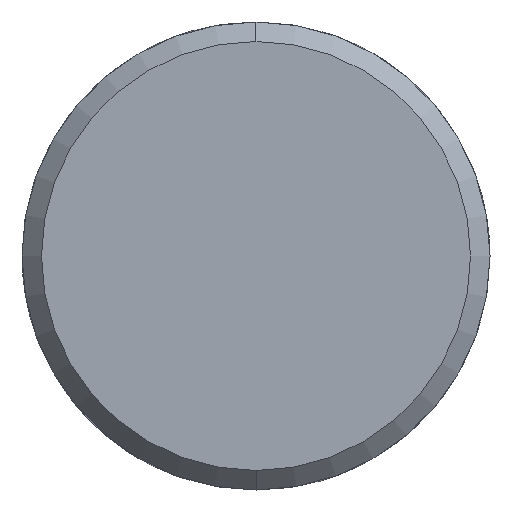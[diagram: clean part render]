
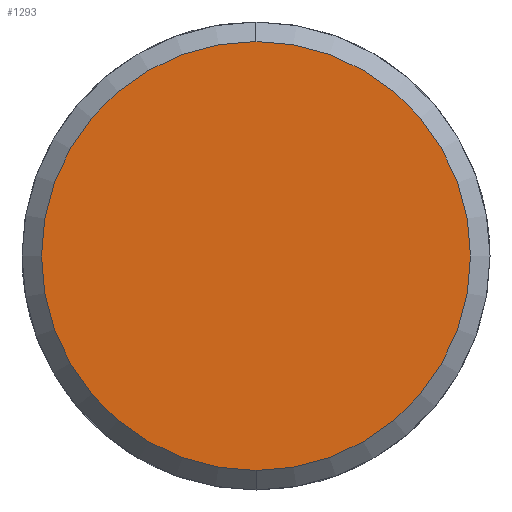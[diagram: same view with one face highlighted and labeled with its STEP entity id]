
A CAD part, left-side view. The second image highlights one B-rep face of the part: STEP entity #1293.
In plain terms, the highlighted planar face has unit normal (-1, 0, 0).
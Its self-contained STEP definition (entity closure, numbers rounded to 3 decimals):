
#1225=CARTESIAN_POINT('Vertex',(-5.,0.,-11.)) ;
#1228=CARTESIAN_POINT('Axis2P3D Location',(-5.,0.,0.)) ;
#1232=CARTESIAN_POINT('Vertex',(-5.,11.,0.)) ;
#1235=CARTESIAN_POINT('Axis2P3D Location',(-5.,0.,0.)) ;
#1239=CARTESIAN_POINT('Vertex',(-5.,0.,11.)) ;
#1261=CARTESIAN_POINT('Axis2P3D Location',(-5.,0.,0.)) ;
#1265=CARTESIAN_POINT('Vertex',(-5.,-11.,0.)) ;
#1268=CARTESIAN_POINT('Axis2P3D Location',(-5.,0.,0.)) ;
#1282=CARTESIAN_POINT('Axis2P3D Location',(-5.,0.,0.)) ;
#1229=DIRECTION('Axis2P3D Direction',(1.,0.,-0.)) ;
#1236=DIRECTION('Axis2P3D Direction',(1.,0.,-0.)) ;
#1262=DIRECTION('Axis2P3D Direction',(1.,0.,-0.)) ;
#1269=DIRECTION('Axis2P3D Direction',(1.,0.,-0.)) ;
#1283=DIRECTION('Axis2P3D Direction',(1.,0.,-0.)) ;
#1284=DIRECTION('Axis2P3D XDirection',(-0.,0.,-1.)) ;
#1230=AXIS2_PLACEMENT_3D('Circle Axis2P3D',#1228,#1229,$) ;
#1237=AXIS2_PLACEMENT_3D('Circle Axis2P3D',#1235,#1236,$) ;
#1263=AXIS2_PLACEMENT_3D('Circle Axis2P3D',#1261,#1262,$) ;
#1270=AXIS2_PLACEMENT_3D('Circle Axis2P3D',#1268,#1269,$) ;
#1285=AXIS2_PLACEMENT_3D('Plane Axis2P3D',#1282,#1283,#1284) ;
#1288=ORIENTED_EDGE('',*,*,#1234,.F.) ;
#1289=ORIENTED_EDGE('',*,*,#1272,.F.) ;
#1290=ORIENTED_EDGE('',*,*,#1267,.F.) ;
#1291=ORIENTED_EDGE('',*,*,#1241,.F.) ;
#1293=ADVANCED_FACE('351-14X26X90',(#1292),#1286,.F.) ;
#1231=CIRCLE('generated circle',#1230,11.) ;
#1238=CIRCLE('generated circle',#1237,11.) ;
#1264=CIRCLE('generated circle',#1263,11.) ;
#1271=CIRCLE('generated circle',#1270,11.) ;
#1234=EDGE_CURVE('',#1226,#1233,#1231,.T.) ;
#1241=EDGE_CURVE('',#1233,#1240,#1238,.T.) ;
#1267=EDGE_CURVE('',#1240,#1266,#1264,.T.) ;
#1272=EDGE_CURVE('',#1266,#1226,#1271,.T.) ;
#1287=EDGE_LOOP('',(#1288,#1289,#1290,#1291)) ;
#1292=FACE_OUTER_BOUND('',#1287,.T.) ;
#1286=PLANE('Plane',#1285) ;
#1226=VERTEX_POINT('',#1225) ;
#1233=VERTEX_POINT('',#1232) ;
#1240=VERTEX_POINT('',#1239) ;
#1266=VERTEX_POINT('',#1265) ;
